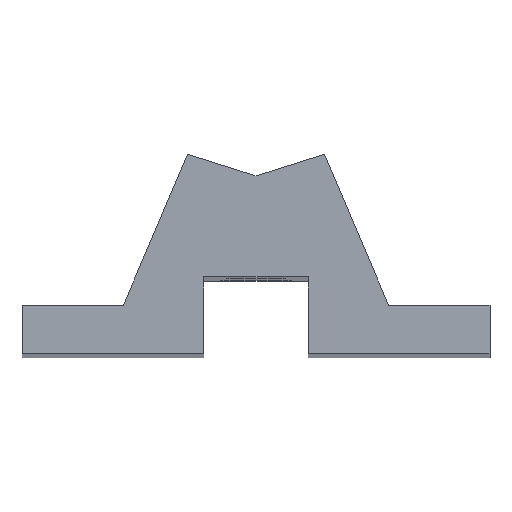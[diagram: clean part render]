
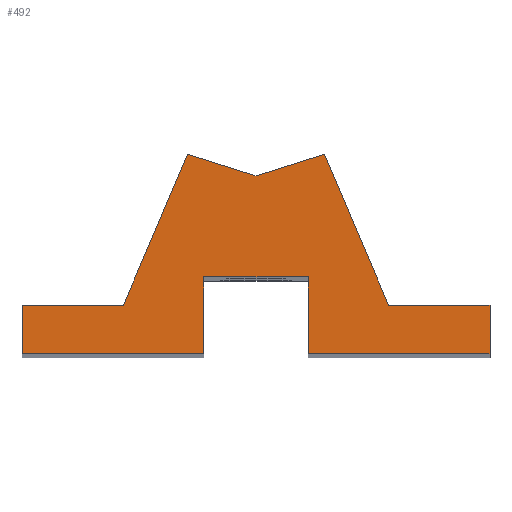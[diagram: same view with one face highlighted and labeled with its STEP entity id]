
A CAD part, top view. The second image highlights one B-rep face of the part: STEP entity #492.
In plain terms, the highlighted planar face has unit normal (0, 0, 1).
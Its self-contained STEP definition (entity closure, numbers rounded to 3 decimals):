
#13 = CARTESIAN_POINT ( 'NONE',  ( 58., -6., 299.75 ) ) ;
#19 = ORIENTED_EDGE ( 'NONE', *, *, #270, .T. ) ;
#24 = CARTESIAN_POINT ( 'NONE',  ( 16.85, 43.722, 299.75 ) ) ;
#40 = DIRECTION ( 'NONE',  ( -0.954, -0.301, 0. ) ) ;
#44 = VERTEX_POINT ( 'NONE', #1059 ) ;
#52 = DIRECTION ( 'NONE',  ( -1., 0., 0. ) ) ;
#53 = VERTEX_POINT ( 'NONE', #13 ) ;
#80 = LINE ( 'NONE', #820, #569 ) ;
#92 = CARTESIAN_POINT ( 'NONE',  ( 0., 0., 299.75 ) ) ;
#101 = DIRECTION ( 'NONE',  ( -1., 0., 0. ) ) ;
#127 = LINE ( 'NONE', #461, #568 ) ;
#129 = EDGE_CURVE ( 'NONE', #785, #53, #432, .T. ) ;
#140 = ORIENTED_EDGE ( 'NONE', *, *, #672, .T. ) ;
#151 = VECTOR ( 'NONE', #880, 1000. ) ;
#157 = VERTEX_POINT ( 'NONE', #300 ) ;
#180 = FACE_OUTER_BOUND ( 'NONE', #460, .T. ) ;
#199 = EDGE_CURVE ( 'NONE', #319, #290, #874, .T. ) ;
#209 = CARTESIAN_POINT ( 'NONE',  ( 13., 13., 299.75 ) ) ;
#213 = DIRECTION ( 'NONE',  ( -0.954, 0.301, 0. ) ) ;
#220 = ORIENTED_EDGE ( 'NONE', *, *, #404, .F. ) ;
#237 = CARTESIAN_POINT ( 'NONE',  ( -32.862, 6., 299.75 ) ) ;
#243 = CARTESIAN_POINT ( 'NONE',  ( -58., 6., 299.75 ) ) ;
#257 = LINE ( 'NONE', #24, #825 ) ;
#259 = CARTESIAN_POINT ( 'NONE',  ( -58., -6., 299.75 ) ) ;
#270 = EDGE_CURVE ( 'NONE', #489, #1006, #790, .T. ) ;
#280 = VERTEX_POINT ( 'NONE', #482 ) ;
#290 = VERTEX_POINT ( 'NONE', #550 ) ;
#299 = VECTOR ( 'NONE', #40, 1000. ) ;
#300 = CARTESIAN_POINT ( 'NONE',  ( -58., 6., 299.75 ) ) ;
#303 = LINE ( 'NONE', #458, #386 ) ;
#312 = CARTESIAN_POINT ( 'NONE',  ( 16.981, 43.413, 299.75 ) ) ;
#319 = VERTEX_POINT ( 'NONE', #312 ) ;
#324 = DIRECTION ( 'NONE',  ( -1., 0., 0. ) ) ;
#330 = EDGE_CURVE ( 'NONE', #280, #44, #802, .T. ) ;
#334 = ORIENTED_EDGE ( 'NONE', *, *, #687, .T. ) ;
#342 = CARTESIAN_POINT ( 'NONE',  ( 58., 6., 299.75 ) ) ;
#349 = EDGE_CURVE ( 'NONE', #596, #558, #394, .T. ) ;
#354 = DIRECTION ( 'NONE',  ( 1., 0., 0. ) ) ;
#364 = CARTESIAN_POINT ( 'NONE',  ( 17.962, 43.722, 299.75 ) ) ;
#370 = CARTESIAN_POINT ( 'NONE',  ( 0., 38.059, 299.75 ) ) ;
#377 = VECTOR ( 'NONE', #52, 1000. ) ;
#379 = LINE ( 'NONE', #370, #669 ) ;
#380 = VERTEX_POINT ( 'NONE', #715 ) ;
#386 = VECTOR ( 'NONE', #706, 1000. ) ;
#394 = LINE ( 'NONE', #237, #929 ) ;
#398 = ORIENTED_EDGE ( 'NONE', *, *, #815, .F. ) ;
#404 = EDGE_CURVE ( 'NONE', #751, #280, #923, .T. ) ;
#432 = LINE ( 'NONE', #259, #464 ) ;
#438 = VECTOR ( 'NONE', #500, 1000. ) ;
#442 = EDGE_CURVE ( 'NONE', #1006, #319, #257, .T. ) ;
#449 = ORIENTED_EDGE ( 'NONE', *, *, #1060, .T. ) ;
#458 = CARTESIAN_POINT ( 'NONE',  ( -58., -6., 299.75 ) ) ;
#460 = EDGE_LOOP ( 'NONE', ( #398, #822, #974, #19, #611, #466, #334, #1048, #449, #140, #624, #759, #220 ) ) ;
#461 = CARTESIAN_POINT ( 'NONE',  ( -58., 6., 299.75 ) ) ;
#464 = VECTOR ( 'NONE', #354, 1000. ) ;
#466 = ORIENTED_EDGE ( 'NONE', *, *, #199, .T. ) ;
#482 = CARTESIAN_POINT ( 'NONE',  ( -13., 13., 299.75 ) ) ;
#489 = VERTEX_POINT ( 'NONE', #342 ) ;
#492 = ADVANCED_FACE ( 'NONE', ( #180 ), #661, .T. ) ;
#500 = DIRECTION ( 'NONE',  ( 0., 1., 0. ) ) ;
#503 = DIRECTION ( 'NONE',  ( 1., 0., 0. ) ) ;
#518 = CARTESIAN_POINT ( 'NONE',  ( -32.862, 6., 299.75 ) ) ;
#533 = DIRECTION ( 'NONE',  ( 0., -1., 0. ) ) ;
#550 = CARTESIAN_POINT ( 'NONE',  ( 0., 38.059, 299.75 ) ) ;
#558 = VERTEX_POINT ( 'NONE', #518 ) ;
#568 = VECTOR ( 'NONE', #533, 1000. ) ;
#569 = VECTOR ( 'NONE', #652, 1000. ) ;
#582 = DIRECTION ( 'NONE',  ( 0., 0., 1. ) ) ;
#596 = VERTEX_POINT ( 'NONE', #739 ) ;
#600 = CARTESIAN_POINT ( 'NONE',  ( -13., 13., 299.75 ) ) ;
#611 = ORIENTED_EDGE ( 'NONE', *, *, #442, .T. ) ;
#624 = ORIENTED_EDGE ( 'NONE', *, *, #1003, .T. ) ;
#627 = CARTESIAN_POINT ( 'NONE',  ( 32.862, 6., 299.75 ) ) ;
#651 = CARTESIAN_POINT ( 'NONE',  ( -58., 6., 299.75 ) ) ;
#652 = DIRECTION ( 'NONE',  ( 0., 1., 0. ) ) ;
#661 = PLANE ( 'NONE',  #890 ) ;
#669 = VECTOR ( 'NONE', #213, 1000. ) ;
#672 = EDGE_CURVE ( 'NONE', #157, #380, #127, .T. ) ;
#686 = VECTOR ( 'NONE', #324, 1000. ) ;
#687 = EDGE_CURVE ( 'NONE', #290, #596, #379, .T. ) ;
#706 = DIRECTION ( 'NONE',  ( 1., 0., 0. ) ) ;
#715 = CARTESIAN_POINT ( 'NONE',  ( -58., -6., 299.75 ) ) ;
#739 = CARTESIAN_POINT ( 'NONE',  ( -16.981, 43.413, 299.75 ) ) ;
#751 = VERTEX_POINT ( 'NONE', #209 ) ;
#759 = ORIENTED_EDGE ( 'NONE', *, *, #330, .F. ) ;
#785 = VERTEX_POINT ( 'NONE', #946 ) ;
#790 = LINE ( 'NONE', #651, #377 ) ;
#802 = LINE ( 'NONE', #893, #151 ) ;
#806 = LINE ( 'NONE', #828, #438 ) ;
#810 = EDGE_CURVE ( 'NONE', #53, #489, #806, .T. ) ;
#815 = EDGE_CURVE ( 'NONE', #785, #751, #80, .T. ) ;
#820 = CARTESIAN_POINT ( 'NONE',  ( 13., 13., 299.75 ) ) ;
#822 = ORIENTED_EDGE ( 'NONE', *, *, #129, .T. ) ;
#825 = VECTOR ( 'NONE', #908, 1000. ) ;
#828 = CARTESIAN_POINT ( 'NONE',  ( 58., 6., 299.75 ) ) ;
#874 = LINE ( 'NONE', #364, #299 ) ;
#880 = DIRECTION ( 'NONE',  ( 0., -1., 0. ) ) ;
#886 = LINE ( 'NONE', #243, #686 ) ;
#890 = AXIS2_PLACEMENT_3D ( 'NONE', #92, #582, #503 ) ;
#893 = CARTESIAN_POINT ( 'NONE',  ( -13., 13., 299.75 ) ) ;
#908 = DIRECTION ( 'NONE',  ( -0.391, 0.921, 0. ) ) ;
#923 = LINE ( 'NONE', #600, #996 ) ;
#929 = VECTOR ( 'NONE', #1051, 1000. ) ;
#946 = CARTESIAN_POINT ( 'NONE',  ( 13., -6., 299.75 ) ) ;
#974 = ORIENTED_EDGE ( 'NONE', *, *, #810, .T. ) ;
#996 = VECTOR ( 'NONE', #101, 1000. ) ;
#1003 = EDGE_CURVE ( 'NONE', #380, #44, #303, .T. ) ;
#1006 = VERTEX_POINT ( 'NONE', #627 ) ;
#1048 = ORIENTED_EDGE ( 'NONE', *, *, #349, .T. ) ;
#1051 = DIRECTION ( 'NONE',  ( -0.391, -0.921, 0. ) ) ;
#1059 = CARTESIAN_POINT ( 'NONE',  ( -13., -6., 299.75 ) ) ;
#1060 = EDGE_CURVE ( 'NONE', #558, #157, #886, .T. ) ;
